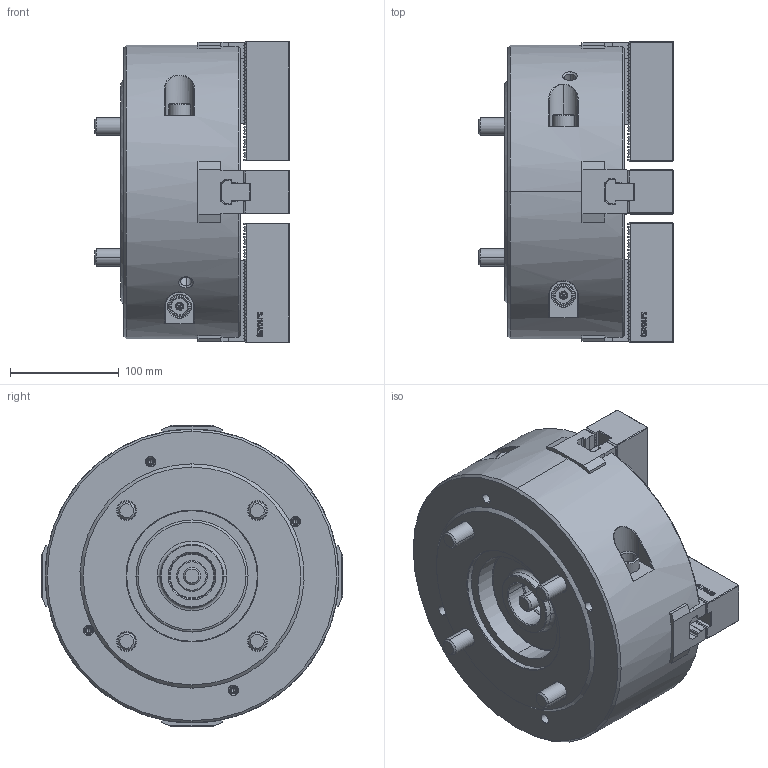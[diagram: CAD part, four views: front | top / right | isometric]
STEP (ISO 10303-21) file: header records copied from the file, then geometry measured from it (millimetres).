
FILE_DESCRIPTION (( 'STEP AP214' ), '1' );
FILE_NAME ('DT1_HW-10_OUTSIDE_VIEW_HUL.STEP', '2026-01-26T02:55:03', ( '' ), ( '' ), 'SwSTEP 2.0', 'SolidWorks 2022', '' );
FILE_SCHEMA (( 'AUTOMOTIVE_DESIGN' ));
Length unit declared in the file: millimetre
Products named in the file (10): DT1_HW10_DN^DT1_HW-10; DT1_HW10_M16x115^DT1_HW-10; DT1_HW10_COVER^DT1_HW-10; DT1_HW10_SOFTJAW^DT1_HW-10; DT1_HW10_TNUT^DT1_HW-10; DT1_HW-10_OUTSIDE_VIEW_HUL; DT1_HW10_DRAWSCREW^DT1_HW-10; DT1_HW10_M5x10^DT1_HW-10; DT1_HW10_M12x35^DT1_HW-10; DT1_HW10_BASE^DT1_HW-10
Assembly tree (28 placements, depth 2):
  DT1_HW-10_OUTSIDE_VIEW_HUL
    DT1_HW10_SOFTJAW^DT1_HW-10  x4
    DT1_HW10_TNUT^DT1_HW-10  x4
    DT1_HW10_COVER^DT1_HW-10
    DT1_HW10_DRAWSCREW^DT1_HW-10
    DT1_HW10_DN^DT1_HW-10
    DT1_HW10_BASE^DT1_HW-10
    DT1_HW10_M16x115^DT1_HW-10  x4
    DT1_HW10_M12x35^DT1_HW-10  x8
    DT1_HW10_M5x10^DT1_HW-10  x4
Bounding box: 179 x 276.62 x 276.98 mm (x, y, z)
Volume: 6582359.8 mm3; surface area: 535844.1 mm2
Topology: 28 solids, 30 shells, 5082 faces, 14245 edges, 9333 vertices
Faces by surface type: plane 3050, cylinder 1112, cone 451, bspline 403, torus 58, sphere 8
Entity records: 114318 total; most frequent: CARTESIAN_POINT 35686, ORIENTED_EDGE 17432, DIRECTION 14467, EDGE_CURVE 8716, VECTOR 6261, LINE 6261, VERTEX_POINT 5720, AXIS2_PLACEMENT_3D 4103
